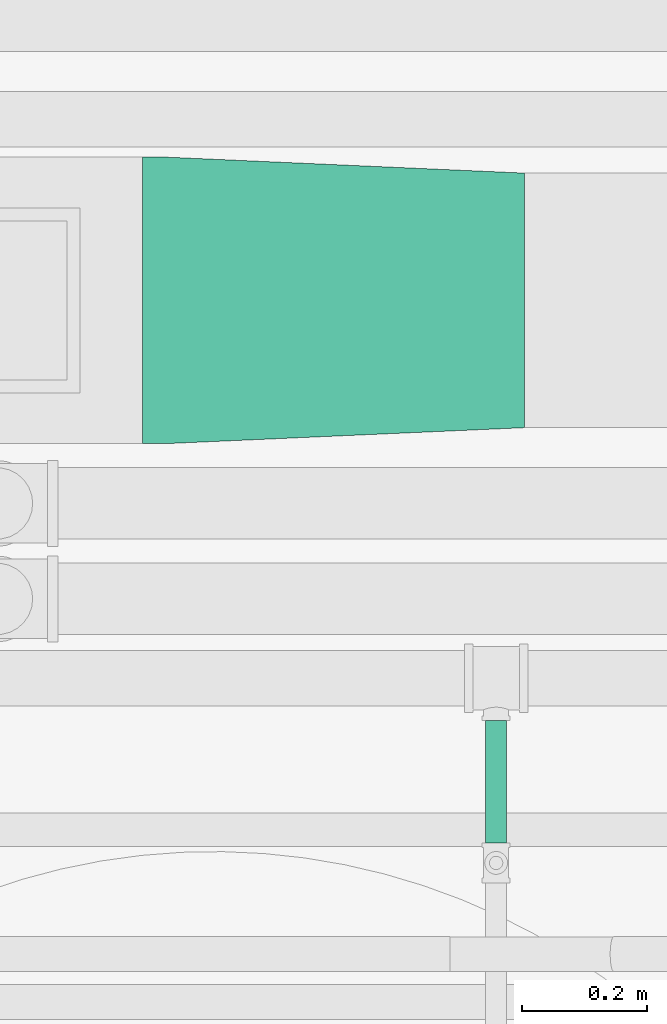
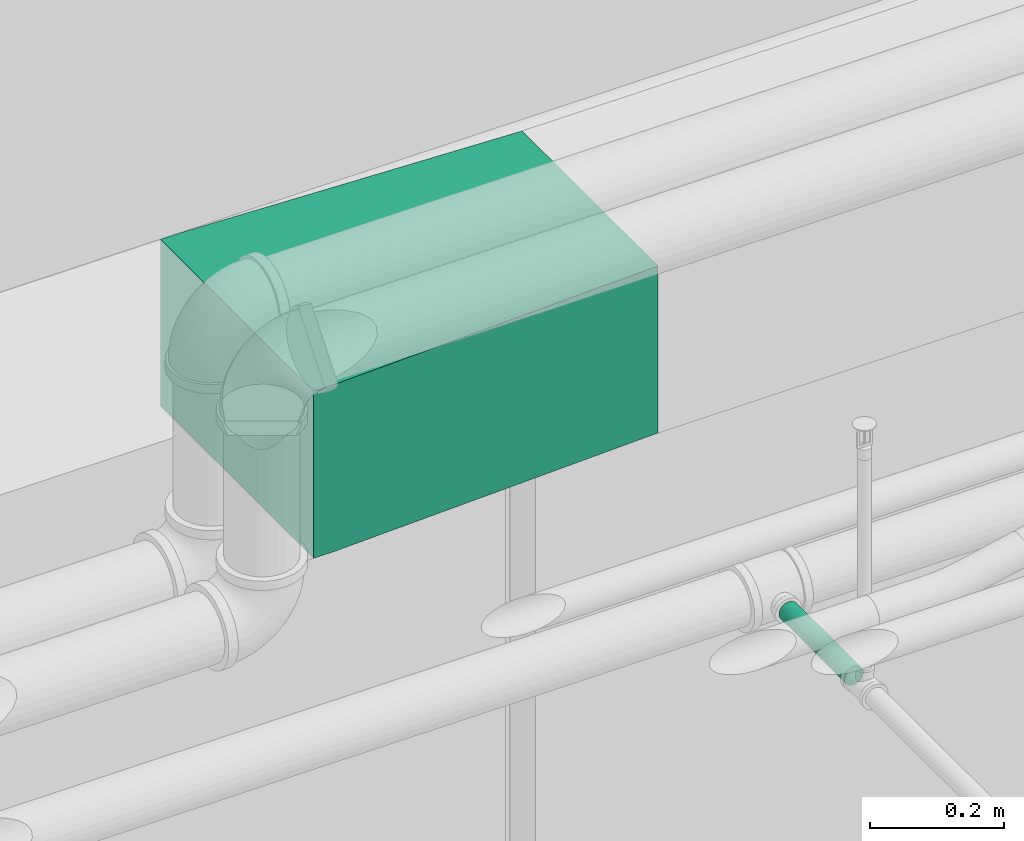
# One storey, part 73 of 108: 1 duct fitting, 1 pipe segment.
"""IFC4 building model written with IfcOpenShell, lengths in feet."""

from ifc_helpers import new_model, entity, si_unit, converted_unit, derived_unit, direction, frame, frame_2d, origin, origin_2d_with_axis, place, context, subcontext, project, spatial, polyline, rectangle, circle, outline, extrude, source, transform, mapped, type_object, type_shapes, element, save


model = new_model("IFC4")

# Units and contexts
model_context = context("Model", 3, precision=0.0001, world=origin(), true_north=direction((6.12303176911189e-17, 1.0)))
body_context = subcontext(model_context, "Body", "Model", "MODEL_VIEW")
ifc_project = project(units=[converted_unit("LENGTHUNIT", "FOOT", entity("IfcRatioMeasure", 0.3048), si_unit("LENGTHUNIT", "METRE"), dimensions=[1, 0, 0, 0, 0, 0, 0]), converted_unit("AREAUNIT", "SQUARE FOOT", entity("IfcRatioMeasure", 0.09290304), si_unit("AREAUNIT", "SQUARE_METRE"), dimensions=[2, 0, 0, 0, 0, 0, 0]), converted_unit("VOLUMEUNIT", "CUBIC FOOT", entity("IfcRatioMeasure", 0.028316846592), si_unit("VOLUMEUNIT", "CUBIC_METRE"), dimensions=[3, 0, 0, 0, 0, 0, 0]), converted_unit("PLANEANGLEUNIT", "DEGREE", entity("IfcRatioMeasure", 0.0174532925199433), si_unit("PLANEANGLEUNIT", "RADIAN"), dimensions=[0, 0, 0, 0, 0, 0, 0]), si_unit("MASSUNIT", "GRAM", prefix="KILO"), derived_unit("MASSDENSITYUNIT", [(si_unit("MASSUNIT", "GRAM", prefix="KILO"), 1), (si_unit("LENGTHUNIT", "METRE"), -3)]), si_unit("TIMEUNIT", "SECOND"), si_unit("FREQUENCYUNIT", "HERTZ"), si_unit("THERMODYNAMICTEMPERATUREUNIT", "DEGREE_CELSIUS"), derived_unit("THERMALTRANSMITTANCEUNIT", [(si_unit("MASSUNIT", "GRAM", prefix="KILO"), 1), (si_unit("THERMODYNAMICTEMPERATUREUNIT", "KELVIN"), -1), (si_unit("TIMEUNIT", "SECOND"), -3)]), derived_unit("VOLUMETRICFLOWRATEUNIT", [(si_unit("LENGTHUNIT", "METRE"), 3), (si_unit("TIMEUNIT", "SECOND"), -1)]), si_unit("ELECTRICCURRENTUNIT", "AMPERE"), si_unit("ELECTRICVOLTAGEUNIT", "VOLT"), si_unit("POWERUNIT", "WATT"), si_unit("FORCEUNIT", "NEWTON"), si_unit("ILLUMINANCEUNIT", "LUX"), si_unit("LUMINOUSFLUXUNIT", "LUMEN"), si_unit("LUMINOUSINTENSITYUNIT", "CANDELA"), derived_unit("USERDEFINED", [(si_unit("MASSUNIT", "GRAM", prefix="KILO"), -1), (si_unit("LENGTHUNIT", "METRE"), -2), (si_unit("TIMEUNIT", "SECOND"), 3), (si_unit("LUMINOUSFLUXUNIT", "LUMEN"), 1)]), derived_unit("LINEARVELOCITYUNIT", [(si_unit("LENGTHUNIT", "METRE"), 1), (si_unit("TIMEUNIT", "SECOND"), -1)]), si_unit("PRESSUREUNIT", "PASCAL"), derived_unit("USERDEFINED", [(si_unit("LENGTHUNIT", "METRE"), -2), (si_unit("MASSUNIT", "GRAM", prefix="KILO"), 1), (si_unit("TIMEUNIT", "SECOND"), -2)])], contexts=[model_context])

# Site, building, storey
site_placement = place(None, origin())
site = spatial("IfcSite", under=ifc_project, at=site_placement, Name="Default", CompositionType="ELEMENT")
building_placement = place(site_placement, origin())
building = spatial("IfcBuilding", under=site, at=building_placement, CompositionType="ELEMENT")
storey_placement = place(building_placement, frame((0.0, 0.0, 168.0)))
storey = spatial("IfcBuildingStorey", under=building, at=storey_placement, Name="Level 15", CompositionType="ELEMENT", Elevation=168.0)

# Duct fitting
duct_fitting_type = type_object("IfcDuctFittingType", Name="Standard", PredefinedType="NOTDEFINED")
shared_shape = source(origin(), body_context, "Body", "SweptSolid", [
    extrude(rectangle(XDim=0.00260416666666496, YDim=1.33333333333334, at=frame_2d((-1.11022302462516e-16, 0.0), x_axis=(1.0, 0.0))), frame((1.99869791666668, 0.0, -0.500000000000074), z_axis=(0.0, 0.0, 1.0), x_axis=(-1.0, 0.0, 0.0)), (0.0, 0.0, 1.0), 1.0),
    extrude(rectangle(XDim=0.125, YDim=1.5, at=origin_2d_with_axis()), frame((0.0625000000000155, 0.0, -0.500000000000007), z_axis=(0.0, 0.0, 1.0), x_axis=(-1.0, 0.0, 0.0)), (0.0, 0.0, 1.0), 1.00000000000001),
    extrude(outline(polyline([(-0.90563058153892, -0.707632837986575), (0.968618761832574, -0.707632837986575), (0.901925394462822, 0.790883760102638), (-0.964913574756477, 0.624381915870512), (-0.90563058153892, -0.707632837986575)])), frame((1.06119791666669, 0.0, -0.500000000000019), z_axis=(0.0, 0.0, 1.0), x_axis=(-0.999011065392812, 0.0444622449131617, 0.0)), (0.0, 0.0, 1.0), 1.00000000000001),
])
type_shapes(duct_fitting_type, [shared_shape])
duct_fitting_placement = place(storey_placement, frame((-27.6133537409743, 13.1928923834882, 9.58333333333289)))
element("IfcDuctFitting", 1, at=duct_fitting_placement, inside=storey, type_object=duct_fitting_type, Name="Rectangular Length Eccentric Transition - DTL:Standard", ObjectType="Rectangular Length Eccentric Transition - DTL:Standard", PredefinedType="NOTDEFINED", context=body_context, shape_type="MappedRepresentation", body=[
    mapped(shared_shape, transform((0.0, 0.0, 0.0), scale=1.0)),
])

# Pipe segment
pipe_segment_type = type_object("IfcPipeSegmentType", Name="Pipe Types:Fire Prot Sched 10 Main", PredefinedType="NOTDEFINED")
pipe_segment_placement = place(storey_placement, frame((-25.8207476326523, 10.3525731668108, 8.93997450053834)))
element("IfcPipeSegment", 2, at=pipe_segment_placement, inside=storey, type_object=pipe_segment_type, Name="Pipe Types:Fire Prot Sched 10 Main", ObjectType="Pipe Types:Fire Prot Sched 10 Main", PredefinedType="NOTDEFINED", context=body_context, shape_type="SweptSolid", body=[
    extrude(circle(Radius=0.0547916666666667, at=frame_2d((1.06581410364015e-14, 0.0), x_axis=(1.0, 0.0))), frame((0.0600254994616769, 0.0, 0.0600254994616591), z_axis=(0.0, 1.0, 0.0), x_axis=(-1.0, 0.0, 0.0)), (0.0, 0.0, 1.0), 0.639942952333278),
])

save(model, "model.ifc")
